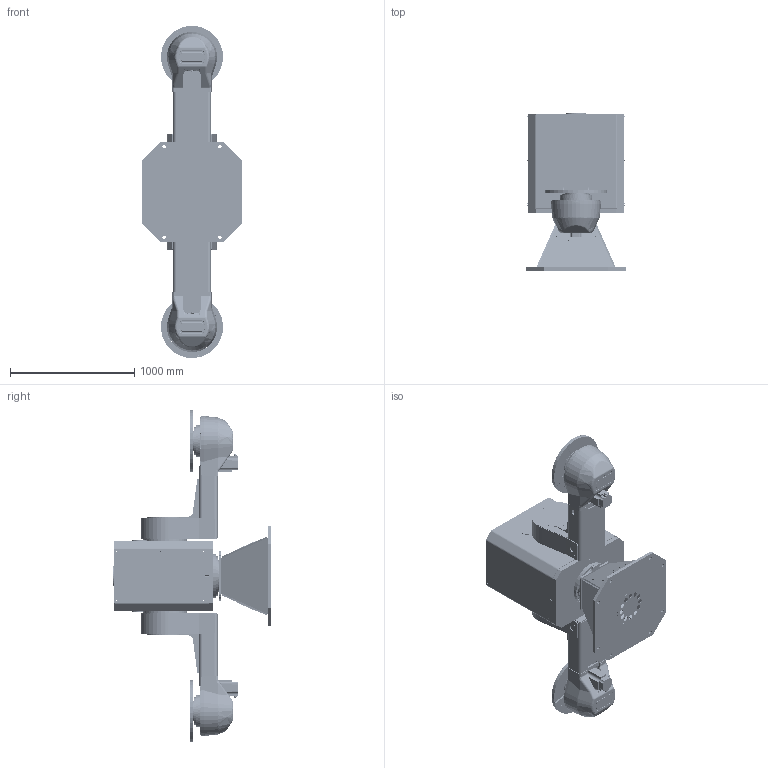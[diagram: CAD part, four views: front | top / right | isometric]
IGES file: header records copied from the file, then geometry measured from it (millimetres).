
Start section: SolidWorks IGES file using analytic representation for surfaces
Global section: file name: S:\Standardpositionierer\3D-Modelle (reduziert)\R2L\140677red\140677red.IGS; native system: SolidWorks 2008; preprocessor: SolidWorks 2008; author: loeschner; date: 081027.095920; units: millimetre
Bounding box: 810 x 1267.5 x 2675.6 mm (x, y, z)
Surface area: 17061575.6 mm2 (no closed solid volume)
Topology: 0 solids, 0 shells, 3440 faces, 70162 edges, 69952 vertices
Faces by surface type: revolution 2290, bspline 1150
